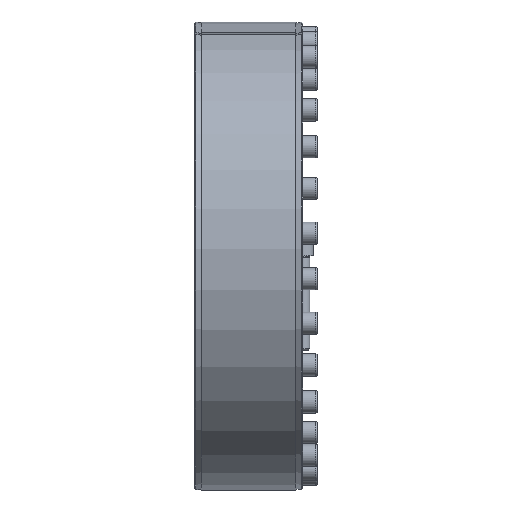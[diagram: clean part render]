
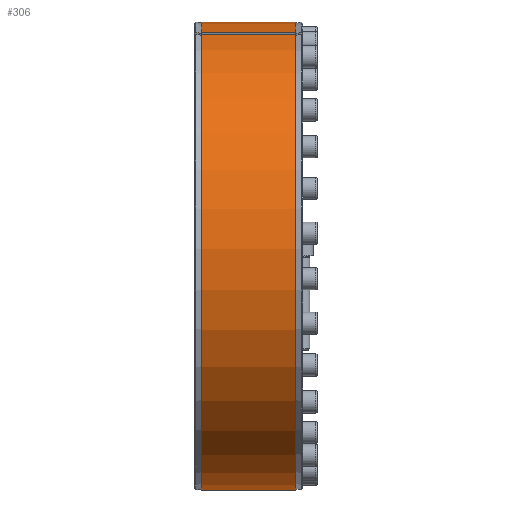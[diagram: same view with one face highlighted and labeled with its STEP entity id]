
A CAD part, left-side view. The second image highlights one B-rep face of the part: STEP entity #306.
In plain terms, the highlighted cylindrical face has radius 347.5 mm (diameter 695 mm), a partial arc.
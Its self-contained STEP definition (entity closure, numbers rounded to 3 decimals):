
#306 = ADVANCED_FACE( '', ( #900 ), #901, .T. );
#900 = FACE_OUTER_BOUND( '', #1592, .T. );
#901 = CYLINDRICAL_SURFACE( '', #1593, 347.5 );
#1592 = EDGE_LOOP( '', ( #2554, #2555, #2556, #2557 ) );
#1593 = AXIS2_PLACEMENT_3D( '', #2558, #2559, #2560 );
#2554 = ORIENTED_EDGE( '', *, *, #3218, .T. );
#2555 = ORIENTED_EDGE( '', *, *, #3219, .T. );
#2556 = ORIENTED_EDGE( '', *, *, #3050, .F. );
#2557 = ORIENTED_EDGE( '', *, *, #2970, .T. );
#2558 = CARTESIAN_POINT( '', ( 0., -60., 0. ) );
#2559 = DIRECTION( '', ( 0., 1., 0. ) );
#2560 = DIRECTION( '', ( 0., 0., -1. ) );
#2970 = EDGE_CURVE( '', #3449, #3447, #3450, .F. );
#3050 = EDGE_CURVE( '', #3449, #3588, #3589, .T. );
#3218 = EDGE_CURVE( '', #3447, #3872, #3873, .T. );
#3219 = EDGE_CURVE( '', #3872, #3588, #3874, .T. );
#3447 = VERTEX_POINT( '', #4223 );
#3449 = VERTEX_POINT( '', #4226 );
#3450 = LINE( '', #4227, #4228 );
#3588 = VERTEX_POINT( '', #4392 );
#3589 = CIRCLE( '', #4393, 347.5 );
#3872 = VERTEX_POINT( '', #4695 );
#3873 = CIRCLE( '', #4696, 347.5 );
#3874 = LINE( '', #4697, #4698 );
#4223 = CARTESIAN_POINT( '', ( -111.181, 150., 329.234 ) );
#4226 = CARTESIAN_POINT( '', ( -111.181, 10., 329.234 ) );
#4227 = CARTESIAN_POINT( '', ( -111.181, -60., 329.234 ) );
#4228 = VECTOR( '', #4908, 1000. );
#4392 = CARTESIAN_POINT( '', ( -103.572, 10., 331.706 ) );
#4393 = AXIS2_PLACEMENT_3D( '', #5067, #5068, #5069 );
#4695 = CARTESIAN_POINT( '', ( -103.572, 150., 331.706 ) );
#4696 = AXIS2_PLACEMENT_3D( '', #5422, #5423, #5424 );
#4697 = CARTESIAN_POINT( '', ( -103.572, -60., 331.706 ) );
#4698 = VECTOR( '', #5425, 1000. );
#4908 = DIRECTION( '', ( 0., -1., 0. ) );
#5067 = CARTESIAN_POINT( '', ( 0., 10., 0. ) );
#5068 = DIRECTION( '', ( 0., -1., 0. ) );
#5069 = DIRECTION( '', ( 0., 0., -1. ) );
#5422 = CARTESIAN_POINT( '', ( 0., 150., 0. ) );
#5423 = DIRECTION( '', ( 0., -1., 0. ) );
#5424 = DIRECTION( '', ( 0., 0., -1. ) );
#5425 = DIRECTION( '', ( 0., -1., 0. ) );
